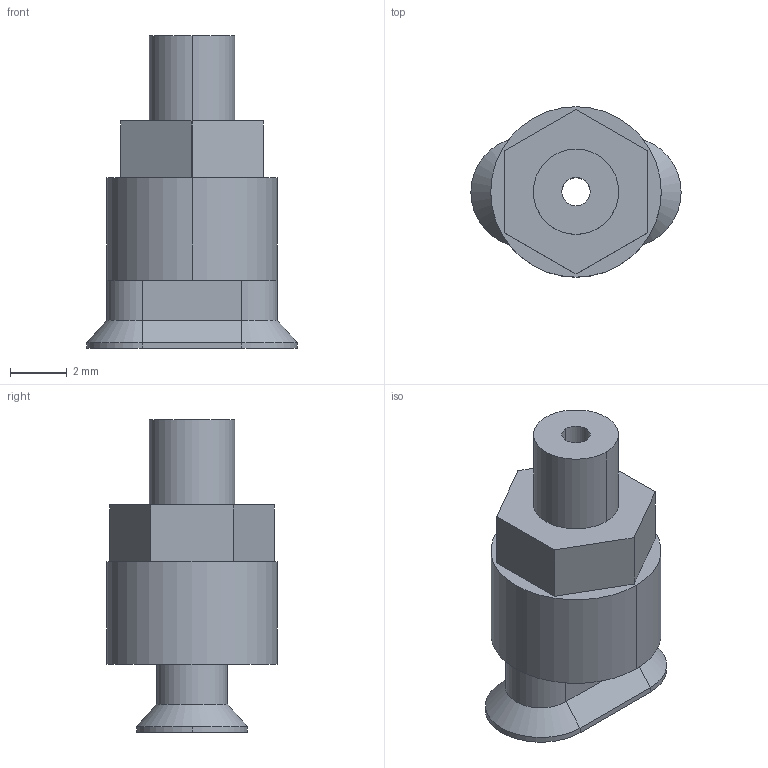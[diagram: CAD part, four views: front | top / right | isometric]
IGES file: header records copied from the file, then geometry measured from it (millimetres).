
Start section: 3D InterOp IGES (v. 2018 1.0.2), Spatial Corp. Copyright (c) 1999-2017.
Global section: file name: schmalz_10_01_05_00228_f1gfjqvvlzrb7rt40akpobw3s.igs; native system: Spatial Corp.; preprocessor: 3D InterOp ACIS/IGES; author: TraceParts; organization: TraceParts S.A.; date: 20181120.071617; units: millimetre
Bounding box: 7.4 x 6 x 11 mm (x, y, z)
Surface area: 299.3 mm2 (no closed solid volume)
Topology: 0 solids, 0 shells, 52 faces, 240 edges, 240 vertices
Faces by surface type: revolution 26, extrusion 26
